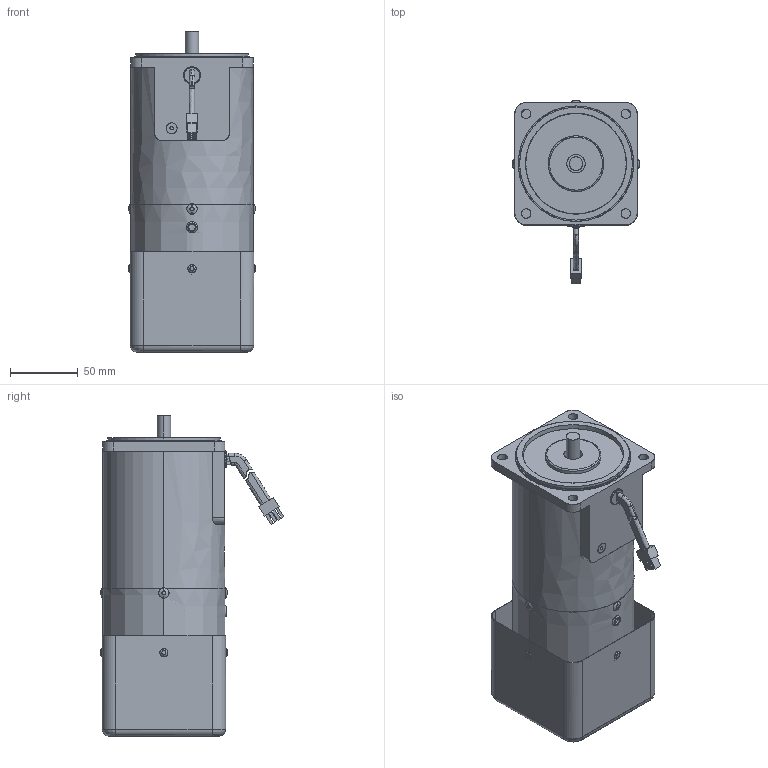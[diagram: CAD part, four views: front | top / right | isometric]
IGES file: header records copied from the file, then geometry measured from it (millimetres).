
Start section: SolidWorks IGES file using analytic representation for surfaces
Global section: file name: \\楷备家烹钦辑滚\data (D)\档搁 枚\权其捞瘤 档搁\9. SPEED BRAKE\90\120W\(9-99) 9SBDG∴-120F2P.IGS; native system: SolidWorks 2007; preprocessor: SolidWorks 2007; author: user; date: 150724.103905; units: millimetre
Bounding box: 94 x 135.4 x 236 mm (x, y, z)
Surface area: 220950.6 mm2 (no closed solid volume)
Topology: 0 solids, 0 shells, 462 faces, 9196 edges, 9196 vertices
Faces by surface type: revolution 286, bspline 176
